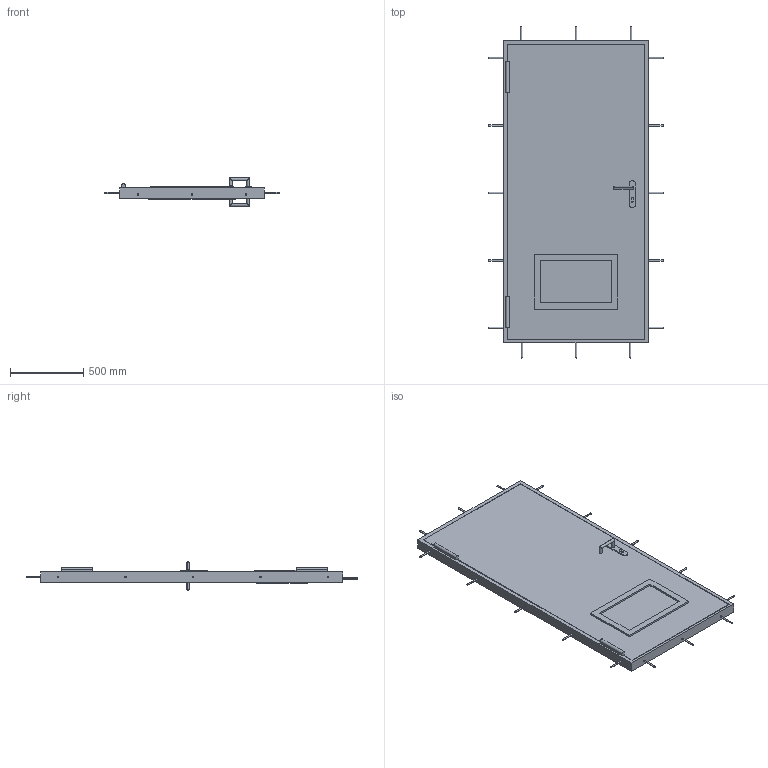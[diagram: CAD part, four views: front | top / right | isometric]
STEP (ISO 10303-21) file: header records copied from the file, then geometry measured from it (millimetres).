
FILE_DESCRIPTION((''),'2;1');
FILE_NAME('52266295','2024-06-26T13:31:26',('ka'),('HUBER SE'),'CREO PARAMETRIC BY PTC INC, 2022162','CREO PARAMETRIC BY PTC INC, 2022162','');
FILE_SCHEMA(('AUTOMOTIVE_DESIGN { 1 0 10303 214 1 1 1 1 }'));
Length unit declared in the file: millimetre
Products named in the file (1): 52266295
Bounding box: 1190 x 2267 x 194.4 mm (x, y, z)
Volume: 123321222.5 mm3; surface area: 5237588.3 mm2
Topology: 1 solids, 2 shells, 136 faces, 424 edges, 319 vertices
Faces by surface type: plane 82, cylinder 54
Entity records: 7064 total; most frequent: CARTESIAN_POINT 1442, DIRECTION 848, ORIENTED_EDGE 632, EDGE_CURVE 316, VECTOR 291, LINE 291, AXIS2_PLACEMENT_3D 277, VERTEX_POINT 208
